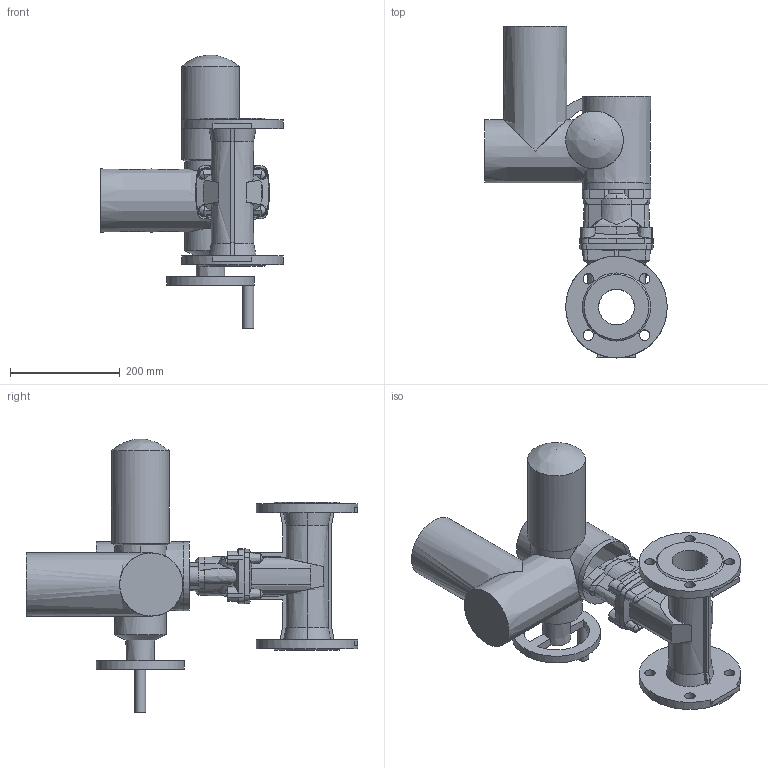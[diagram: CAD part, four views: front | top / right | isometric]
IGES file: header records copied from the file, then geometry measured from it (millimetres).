
Start section: SolidWorks IGES file using analytic representation for surfaces
Global section: file name: \\avksan2\techshare\PBM outline export from Enovia\O_15_72_DN065_X1X_SA07.6_AA0.igs; native system: SolidWorks 2012; preprocessor: SolidWorks 2012; author: pbm; date: 170320.134440; units: inch
Bounding box: 332.5 x 604.5 x 499 mm (x, y, z)
Surface area: 648388 mm2 (no closed solid volume)
Topology: 0 solids, 0 shells, 289 faces, 1591 edges, 1553 vertices
Faces by surface type: revolution 156, bspline 133
